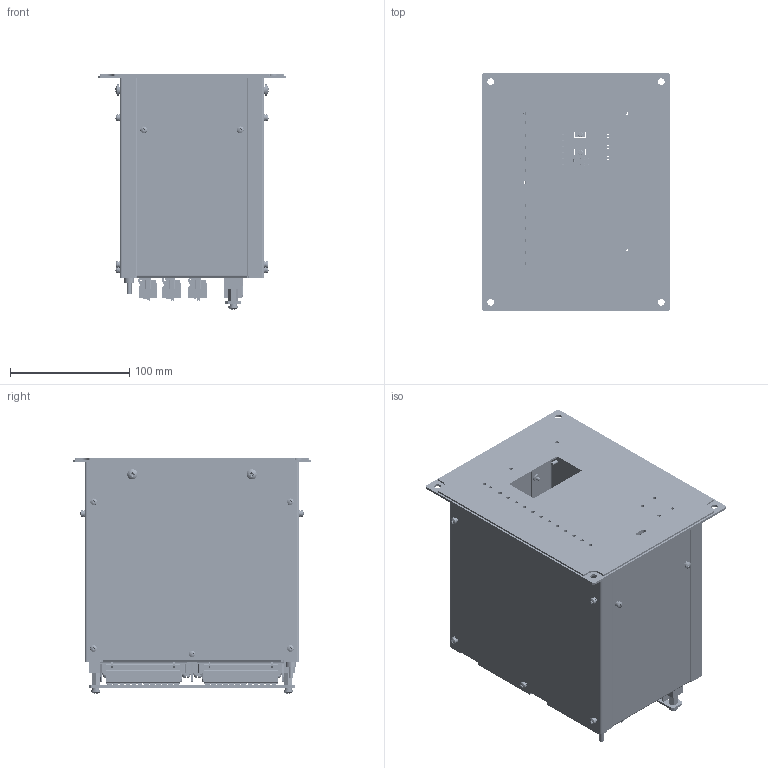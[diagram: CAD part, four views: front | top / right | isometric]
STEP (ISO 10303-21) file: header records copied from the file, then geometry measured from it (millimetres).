
FILE_DESCRIPTION(('STEP AP214'), '1');
FILE_NAME('ﾊﾈﾒ-ﾐ-ﾋ', '', ('UNSPECIFIED'), ('UNSPECIFIED'), 'C3D Converter', 'C3D Toolkit', '');
FILE_SCHEMA(('AUTOMOTIVE_DESIGN { 1 0 10303 214 3 1 1}'));
Length unit declared in the file: millimetre
Products named in the file (63): ТРБН.656122.007; ТРБН.426441.007; ТРБН.301412.007; ТРБН.741128.007; ТРБН.745222.001; СКАТ.422412.161; ТРБН.301732.007; ТРБН.745422.007; ТРБН.301261.007; ТРБН.745512.007; ТРБН.434416.014; ТРБН.754342.001-01; ТРБН.754342.002-05; ТРБН.434416.015; ТРБН.754342.002-06; ТРБН.434416.016; ТРБН.754342.002-07; ТРБН.434416.017; ТРБН.754342.002-08; ТРБН.434416.011; ТРБН.754342.001; ТРБН.754342.002; ТРБН.434416.012; ТРБН.754342.002-01; ТРБН.434416.013; ТРБН.754342.002-02; ТРБН.741134.002; XM3; 2EDGRHM-5.08-24P-14-00A(H); XM6; 691317510004; 6913175100xx_PIN; 6913175100xx_INSERT; 45H-08P; 45H-08P-01; ТРБН.746612.002
Assembly tree (138 placements, depth 4):
  ТРБН.656122.007
    ТРБН.426441.007
      ТРБН.301412.007
        ТРБН.741128.007
        ТРБН.745222.001  x2
        (unnamed)  x2
        (unnamed)  x2
        (unnamed)  x4
        (unnamed)  x4
        (unnamed)  x4
      СКАТ.422412.161
    ТРБН.301732.007  x2
      ТРБН.745422.007
      (unnamed)
      (unnamed)
    ТРБН.301261.007
      ТРБН.745512.007
      (unnamed)
      (unnamed)
      (unnamed)
    ТРБН.434416.014
      (unnamed)
      ТРБН.754342.001-01
      ТРБН.754342.002-05
    ТРБН.434416.015
      (unnamed)
      ТРБН.754342.001-01
      ТРБН.754342.002-06
    ТРБН.434416.016
      (unnamed)
      ТРБН.754342.001-01
      ТРБН.754342.002-07
    ТРБН.434416.017
      (unnamed)
      ТРБН.754342.001-01
      ТРБН.754342.002-08
    ТРБН.434416.011
      (unnamed)
      ТРБН.754342.001
      ТРБН.754342.002
    ТРБН.434416.012
      (unnamed)
      ТРБН.754342.001
      ТРБН.754342.002-01
    ТРБН.434416.013
      (unnamed)
      ТРБН.754342.001
      ТРБН.754342.002-02
    (unnamed)  x5
    (unnamed)  x4
    (unnamed)  x10
    (unnamed)  x4
    (unnamed)  x14
    (unnamed)  x14
    ТРБН.741134.002
    (unnamed)
    (unnamed)
    (unnamed)
    (unnamed)
    (unnamed)
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Bounding box: 158 x 200 x 197.39 mm (x, y, z)
Volume: 426114.8 mm3; surface area: 500094.7 mm2
Topology: 137 solids, 173 shells, 19152 faces, 52174 edges, 34109 vertices
Faces by surface type: plane 10948, cylinder 7192, torus 504, cone 245, bspline 240, sphere 21, extrusion 2
Full cylindrical faces by diameter (mm): 1.6 x8, 1.8 x14, 1.85 x8, 2.459 x6, 2.5 x14, 2.6 x12, 2.75 x12, 3 x44, 3.2 x38, 3.242 x7, 3.3 x60, 3.301 x16, 3.4 x8, 3.5 x62, 3.85 x14, 4 x67, 4.2 x6, 4.22 x6, 4.3 x2, 4.5 x13, 4.6 x4, 5 x6, 5.6 x24, 5.7 x4, 6 x14, 6.35 x6, 6.8 x1, 6.992 x16, 7 x16, 7.25 x4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
Entity records: 483254 total; most frequent: CARTESIAN_POINT 110479, ORIENTED_EDGE 60140, DIRECTION 59723, EDGE_CURVE 30070, AXIS2_PLACEMENT_3D 20257, VERTEX_POINT 19917, VECTOR 19209, LINE 19207
